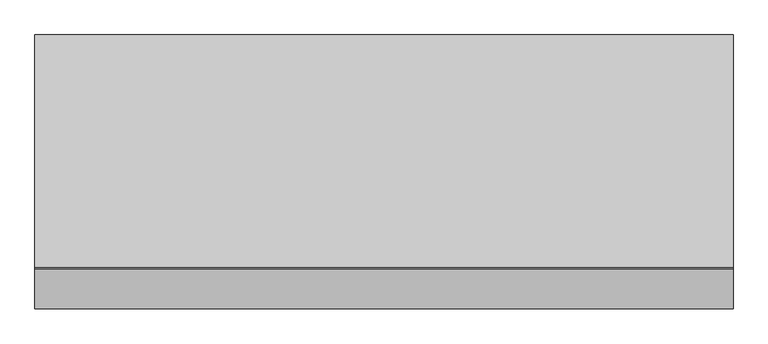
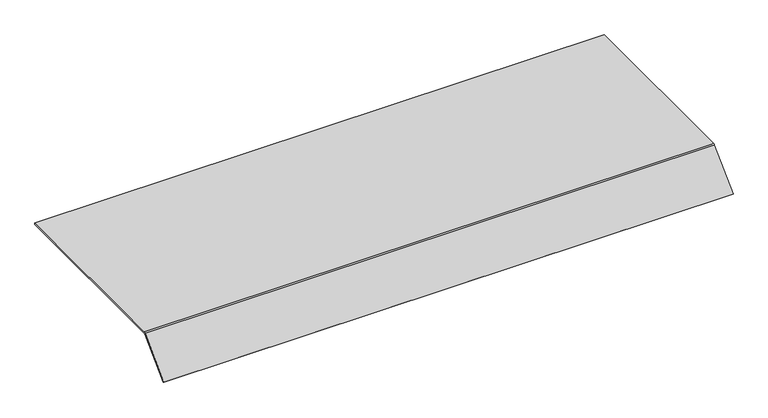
"""IFC4 building model written with IfcOpenShell, lengths in millimetres: proxy geometry, Electrical_Installation_Hager_Blank-Cover-800mm-Single-Sided-Height-70mm : Electrical_Installation_Hager_Blank-Cover-800mm-Single-Sided-Height-70mm."""

from ifc_helpers import new_model, si_unit, point, frame, frame_2d, origin, place, context, project, spatial, polyline, circle_curve, trimmed, segment, composite_curve, outline, extrude, source, transform, mapped, element, save


def electrical_fixtures_50d1a96e(model_context):
    return source(origin(), model_context, "Body", "SweptSolid", [
        extrude(outline(composite_curve([segment(polyline([(200.0, 40.5), (200.0, 37.5), (-199.8229541, 37.5)]), True, "CONTINUOUS"), segment(trimmed(circle_curve(frame_2d((-199.8229541, 36.0725733)), 1.4274267), [point((-199.8229541, 37.5))], [point((-200.8322972, 37.0819164))], True, "CARTESIAN"), True, "CONTINUOUS"), segment(polyline([(-200.8322972, 37.0819164), (-268.6627596, -30.7485461), (-270.78408, -28.6272257), (-202.8206472, 39.336207)]), True, "CONTINUOUS"), segment(trimmed(circle_curve(frame_2d((-200.0110025, 36.5265623)), 3.9734377), [point((-202.8206472, 39.336207))], [point((-200.0110025, 40.5))], False, "CARTESIAN"), True, "CONTINUOUS"), segment(polyline([(-200.0110025, 40.5), (200.0, 40.5)]), True, "CONTINUOUS")], self_intersect=False)), frame((0.0, 0.0, 0.0), z_axis=(1.0, 0.0, 0.0), x_axis=(0.0, 1.0, 0.0)), (0.0, 0.0, 1.0), 1200.0),
    ])


if __name__ == "__main__":
    model = new_model("IFC4")
    model_context = context("Model", 3, world=origin())
    ifc_project = project(units=[si_unit("LENGTHUNIT", "METRE", prefix="MILLI")], contexts=[model_context])
    site = spatial("IfcSite", under=ifc_project)
    building = spatial("IfcBuilding", under=site)
    placement = place(None, origin())
    electrical_fixtures_shape = electrical_fixtures_50d1a96e(model_context)
    element("IfcBuildingElementProxy", 1, Name="Electrical_Installation_Hager_Blank-Cover-800mm-Single-Sided-Height-70mm : Electrical_Installation_Hager_Blank-Cover-800mm-Single-Sided-Height-70mm", ObjectType="Electrical_Installation_Hager_Blank-Cover-800mm-Single-Sided-Height-70mm : Electrical_Installation_Hager_Blank-Cover-800mm-Single-Sided-Height-70mm", at=placement, inside=building, context=model_context, shape_type="MappedRepresentation", body=[
        mapped(electrical_fixtures_shape, transform((0.0, 0.0, 0.0), x_axis=(1.0, 0.0, 0.0), y_axis=(0.0, 1.0, 0.0), z_axis=(0.0, 0.0, 1.0))),
    ])
    save(model, "model.ifc")
